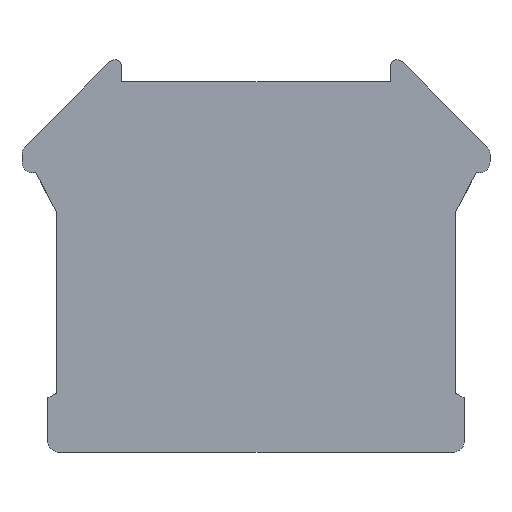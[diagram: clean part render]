
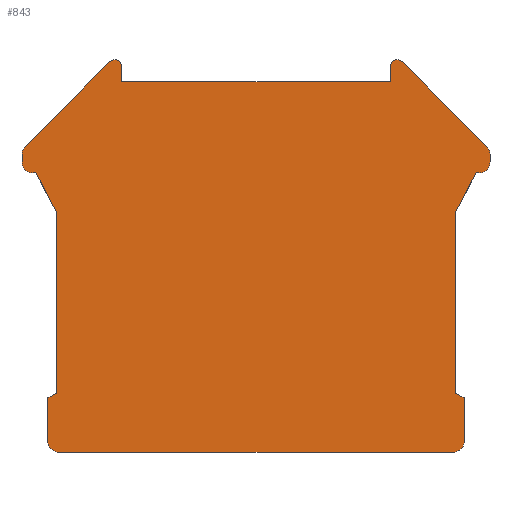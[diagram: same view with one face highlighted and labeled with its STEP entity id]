
A CAD part, top view. The second image highlights one B-rep face of the part: STEP entity #843.
In plain terms, the highlighted planar face has unit normal (0, 0, 1).
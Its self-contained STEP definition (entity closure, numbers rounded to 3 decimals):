
#9=DIRECTION('',(0.,1.,0.));
#10=VECTOR('',#9,16.45);
#11=CARTESIAN_POINT('',(119.302,-8.239,1.6));
#12=LINE('',#11,#10);
#13=DIRECTION('',(-0.879,0.477,0.));
#14=VECTOR('',#13,0.909);
#15=CARTESIAN_POINT('',(120.101,-8.673,1.6));
#16=LINE('',#15,#14);
#17=DIRECTION('',(0.,1.,0.));
#18=VECTOR('',#17,4.062);
#19=CARTESIAN_POINT('',(120.101,-12.735,1.6));
#20=LINE('',#19,#18);
#21=CARTESIAN_POINT('',(119.111,-12.594,1.6));
#22=DIRECTION('',(0.,0.,1.));
#23=DIRECTION('',(0.,-1.,0.));
#24=AXIS2_PLACEMENT_3D('',#21,#22,#23);
#26=DIRECTION('',(1.,0.,0.));
#27=VECTOR('',#26,35.818);
#28=CARTESIAN_POINT('',(83.293,-13.594,1.6));
#29=LINE('',#28,#27);
#30=CARTESIAN_POINT('',(83.293,-12.594,1.6));
#31=DIRECTION('',(0.,0.,1.));
#32=DIRECTION('',(-0.992,-0.128,0.));
#33=AXIS2_PLACEMENT_3D('',#30,#31,#32);
#35=DIRECTION('',(0.,-1.,0.));
#36=VECTOR('',#35,4.048);
#37=CARTESIAN_POINT('',(82.301,-8.674,1.6));
#38=LINE('',#37,#36);
#39=DIRECTION('',(-0.879,-0.477,0.));
#40=VECTOR('',#39,0.911);
#41=CARTESIAN_POINT('',(83.102,-8.239,1.6));
#42=LINE('',#41,#40);
#43=DIRECTION('',(0.,-1.,0.));
#44=VECTOR('',#43,16.45);
#45=CARTESIAN_POINT('',(83.102,8.211,1.6));
#46=LINE('',#45,#44);
#47=DIRECTION('',(0.472,-0.882,0.));
#48=VECTOR('',#47,4.026);
#49=CARTESIAN_POINT('',(81.202,11.761,1.6));
#50=LINE('',#49,#48);
#51=CARTESIAN_POINT('',(80.952,12.761,1.6));
#52=DIRECTION('',(0.,0.,1.));
#53=DIRECTION('',(-1.,0.,0.));
#54=AXIS2_PLACEMENT_3D('',#51,#52,#53);
#56=CARTESIAN_POINT('',(80.952,13.472,1.6));
#57=DIRECTION('',(0.,0.,1.));
#58=DIRECTION('',(-0.707,0.707,0.));
#59=AXIS2_PLACEMENT_3D('',#56,#57,#58);
#61=DIRECTION('',(-0.707,-0.707,0.));
#62=VECTOR('',#61,10.848);
#63=CARTESIAN_POINT('',(87.916,21.849,1.6));
#64=LINE('',#63,#62);
#65=CARTESIAN_POINT('',(88.366,21.399,1.6));
#66=DIRECTION('',(0.,0.,1.));
#67=DIRECTION('',(1.,0.,0.));
#68=AXIS2_PLACEMENT_3D('',#65,#66,#67);
#70=DIRECTION('',(0.,1.,0.));
#71=VECTOR('',#70,1.364);
#72=CARTESIAN_POINT('',(89.002,20.036,1.6));
#73=LINE('',#72,#71);
#74=CARTESIAN_POINT('',(114.039,21.399,1.6));
#75=DIRECTION('',(0.,0.,1.));
#76=DIRECTION('',(0.707,0.707,0.));
#77=AXIS2_PLACEMENT_3D('',#74,#75,#76);
#79=DIRECTION('',(-0.707,0.707,0.));
#80=VECTOR('',#79,10.848);
#81=CARTESIAN_POINT('',(122.159,14.179,1.6));
#82=LINE('',#81,#80);
#83=CARTESIAN_POINT('',(121.452,13.472,1.6));
#84=DIRECTION('',(0.,0.,1.));
#85=DIRECTION('',(1.,0.,0.));
#86=AXIS2_PLACEMENT_3D('',#83,#84,#85);
#88=CARTESIAN_POINT('',(121.452,12.761,1.6));
#89=DIRECTION('',(0.,0.,1.));
#90=DIRECTION('',(0.,-1.,0.));
#91=AXIS2_PLACEMENT_3D('',#88,#89,#90);
#93=DIRECTION('',(0.472,0.882,0.));
#94=VECTOR('',#93,4.026);
#95=CARTESIAN_POINT('',(119.302,8.211,1.6));
#96=LINE('',#95,#94);
#101=DIRECTION('',(-1.,0.,0.));
#102=VECTOR('',#101,0.25);
#103=CARTESIAN_POINT('',(121.452,11.761,1.6));
#104=LINE('',#103,#102);
#309=DIRECTION('',(0.,-1.,0.));
#310=VECTOR('',#309,0.711);
#311=CARTESIAN_POINT('',(122.452,13.472,1.6));
#312=LINE('',#311,#310);
#329=DIRECTION('',(0.,1.,0.));
#330=VECTOR('',#329,1.364);
#331=CARTESIAN_POINT('',(113.402,20.036,1.6));
#332=LINE('',#331,#330);
#341=DIRECTION('',(1.,0.,0.));
#342=VECTOR('',#341,24.4);
#343=CARTESIAN_POINT('',(89.002,20.036,1.6));
#344=LINE('',#343,#342);
#361=DIRECTION('',(0.,1.,0.));
#362=VECTOR('',#361,0.711);
#363=CARTESIAN_POINT('',(79.952,12.761,1.6));
#364=LINE('',#363,#362);
#373=DIRECTION('',(-1.,0.,0.));
#374=VECTOR('',#373,0.25);
#375=CARTESIAN_POINT('',(81.202,11.761,1.6));
#376=LINE('',#375,#374);
#589=CARTESIAN_POINT('',(114.489,21.849,1.6));
#590=VERTEX_POINT('',#589);
#596=CARTESIAN_POINT('',(113.402,21.399,1.6));
#598=VERTEX_POINT('',#596);
#605=CARTESIAN_POINT('',(113.402,20.036,1.6));
#606=VERTEX_POINT('',#605);
#607=CARTESIAN_POINT('',(89.002,21.399,1.6));
#609=VERTEX_POINT('',#607);
#653=CARTESIAN_POINT('',(89.002,20.036,1.6));
#654=VERTEX_POINT('',#653);
#655=CARTESIAN_POINT('',(87.916,21.849,1.6));
#656=CARTESIAN_POINT('',(80.245,14.179,1.6));
#657=VERTEX_POINT('',#655);
#658=VERTEX_POINT('',#656);
#659=CARTESIAN_POINT('',(122.159,14.179,1.6));
#660=VERTEX_POINT('',#659);
#665=CARTESIAN_POINT('',(121.452,11.761,1.6));
#666=CARTESIAN_POINT('',(122.452,12.761,1.6));
#667=VERTEX_POINT('',#665);
#668=VERTEX_POINT('',#666);
#671=CARTESIAN_POINT('',(83.102,8.211,1.6));
#672=CARTESIAN_POINT('',(83.102,-8.239,1.6));
#673=VERTEX_POINT('',#671);
#674=VERTEX_POINT('',#672);
#675=CARTESIAN_POINT('',(119.111,-13.594,1.6));
#676=CARTESIAN_POINT('',(120.101,-12.735,1.6));
#677=VERTEX_POINT('',#675);
#678=VERTEX_POINT('',#676);
#679=CARTESIAN_POINT('',(120.101,-8.673,1.6));
#680=VERTEX_POINT('',#679);
#681=CARTESIAN_POINT('',(83.293,-13.594,1.6));
#682=VERTEX_POINT('',#681);
#683=CARTESIAN_POINT('',(82.301,-8.674,1.6));
#684=CARTESIAN_POINT('',(82.301,-12.723,1.6));
#685=VERTEX_POINT('',#683);
#686=VERTEX_POINT('',#684);
#687=CARTESIAN_POINT('',(81.202,11.761,1.6));
#688=VERTEX_POINT('',#687);
#691=CARTESIAN_POINT('',(79.952,12.761,1.6));
#692=CARTESIAN_POINT('',(80.952,11.761,1.6));
#693=VERTEX_POINT('',#691);
#694=VERTEX_POINT('',#692);
#703=CARTESIAN_POINT('',(119.302,-8.239,1.6));
#704=VERTEX_POINT('',#703);
#705=CARTESIAN_POINT('',(122.452,13.472,1.6));
#706=VERTEX_POINT('',#705);
#713=CARTESIAN_POINT('',(79.952,13.472,1.6));
#714=VERTEX_POINT('',#713);
#715=CARTESIAN_POINT('',(119.302,8.211,1.6));
#716=VERTEX_POINT('',#715);
#717=CARTESIAN_POINT('',(121.202,11.761,1.6));
#718=VERTEX_POINT('',#717);
#785=CARTESIAN_POINT('',(0.,0.,1.6));
#786=DIRECTION('',(0.,0.,1.));
#787=DIRECTION('',(1.,0.,0.));
#788=AXIS2_PLACEMENT_3D('',#785,#786,#787);
#789=PLANE('',#788);
#791=ORIENTED_EDGE('',*,*,#790,.F.);
#793=ORIENTED_EDGE('',*,*,#792,.F.);
#795=ORIENTED_EDGE('',*,*,#794,.F.);
#797=ORIENTED_EDGE('',*,*,#796,.F.);
#799=ORIENTED_EDGE('',*,*,#798,.F.);
#801=ORIENTED_EDGE('',*,*,#800,.F.);
#803=ORIENTED_EDGE('',*,*,#802,.F.);
#805=ORIENTED_EDGE('',*,*,#804,.F.);
#807=ORIENTED_EDGE('',*,*,#806,.F.);
#809=ORIENTED_EDGE('',*,*,#808,.F.);
#811=ORIENTED_EDGE('',*,*,#810,.T.);
#813=ORIENTED_EDGE('',*,*,#812,.F.);
#815=ORIENTED_EDGE('',*,*,#814,.T.);
#817=ORIENTED_EDGE('',*,*,#816,.F.);
#819=ORIENTED_EDGE('',*,*,#818,.F.);
#821=ORIENTED_EDGE('',*,*,#820,.F.);
#823=ORIENTED_EDGE('',*,*,#822,.F.);
#825=ORIENTED_EDGE('',*,*,#824,.T.);
#827=ORIENTED_EDGE('',*,*,#826,.T.);
#829=ORIENTED_EDGE('',*,*,#828,.F.);
#831=ORIENTED_EDGE('',*,*,#830,.F.);
#833=ORIENTED_EDGE('',*,*,#832,.F.);
#835=ORIENTED_EDGE('',*,*,#834,.T.);
#836=ORIENTED_EDGE('',*,*,#774,.F.);
#838=ORIENTED_EDGE('',*,*,#837,.T.);
#840=ORIENTED_EDGE('',*,*,#839,.F.);
#841=EDGE_LOOP('',(#791,#793,#795,#797,#799,#801,#803,#805,#807,#809,#811,#813,
#815,#817,#819,#821,#823,#825,#827,#829,#831,#833,#835,#836,#838,#840));
#842=FACE_OUTER_BOUND('',#841,.F.);
#843=ADVANCED_FACE('',(#842),#789,.T.);
#25=CIRCLE('',#24,1.);
#34=CIRCLE('',#33,1.);
#55=CIRCLE('',#54,1.);
#60=CIRCLE('',#59,1.);
#69=CIRCLE('',#68,0.636);
#78=CIRCLE('',#77,0.636);
#87=CIRCLE('',#86,1.);
#92=CIRCLE('',#91,1.);
#774=EDGE_CURVE('',#667,#668,#92,.T.);
#790=EDGE_CURVE('',#704,#716,#12,.T.);
#792=EDGE_CURVE('',#680,#704,#16,.T.);
#794=EDGE_CURVE('',#678,#680,#20,.T.);
#796=EDGE_CURVE('',#677,#678,#25,.T.);
#798=EDGE_CURVE('',#682,#677,#29,.T.);
#800=EDGE_CURVE('',#686,#682,#34,.T.);
#802=EDGE_CURVE('',#685,#686,#38,.T.);
#804=EDGE_CURVE('',#674,#685,#42,.T.);
#806=EDGE_CURVE('',#673,#674,#46,.T.);
#808=EDGE_CURVE('',#688,#673,#50,.T.);
#810=EDGE_CURVE('',#688,#694,#376,.T.);
#812=EDGE_CURVE('',#693,#694,#55,.T.);
#814=EDGE_CURVE('',#693,#714,#364,.T.);
#816=EDGE_CURVE('',#658,#714,#60,.T.);
#818=EDGE_CURVE('',#657,#658,#64,.T.);
#820=EDGE_CURVE('',#609,#657,#69,.T.);
#822=EDGE_CURVE('',#654,#609,#73,.T.);
#824=EDGE_CURVE('',#654,#606,#344,.T.);
#826=EDGE_CURVE('',#606,#598,#332,.T.);
#828=EDGE_CURVE('',#590,#598,#78,.T.);
#830=EDGE_CURVE('',#660,#590,#82,.T.);
#832=EDGE_CURVE('',#706,#660,#87,.T.);
#834=EDGE_CURVE('',#706,#668,#312,.T.);
#837=EDGE_CURVE('',#667,#718,#104,.T.);
#839=EDGE_CURVE('',#716,#718,#96,.T.);
